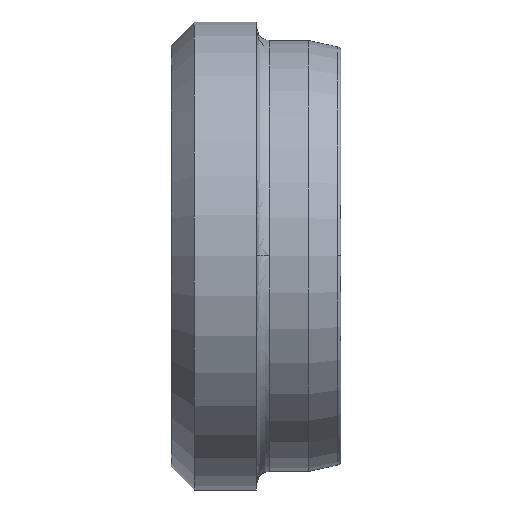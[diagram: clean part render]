
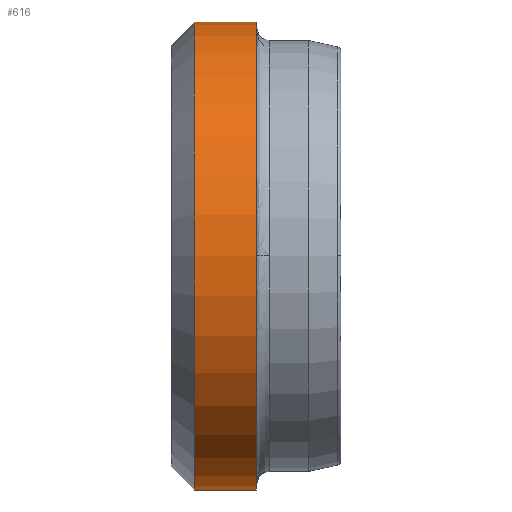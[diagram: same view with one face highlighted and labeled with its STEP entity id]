
A CAD part, top view. The second image highlights one B-rep face of the part: STEP entity #616.
In plain terms, the highlighted cylindrical face has radius 18 mm (diameter 36 mm), a partial arc.
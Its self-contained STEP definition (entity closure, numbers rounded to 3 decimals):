
#575=CARTESIAN_POINT('',(-5.037,-10.882,0.0));
#576=DIRECTION('',(1.0,0.0,0.0));
#577=DIRECTION('',(0.0,1.0,0.0));
#578=AXIS2_PLACEMENT_3D('',#575,#576,#577);
#579=CYLINDRICAL_SURFACE('',#578,18.0);
#580=CARTESIAN_POINT('',(-6.525,7.118,0.0));
#581=VERTEX_POINT('',#580);
#582=CARTESIAN_POINT('',(-1.75,7.118,0.0));
#583=VERTEX_POINT('',#582);
#584=CARTESIAN_POINT('',(-6.525,7.118,0.0));
#585=DIRECTION('',(1.0,0.0,0.0));
#586=VECTOR('',#585,4.775);
#587=LINE('',#584,#586);
#588=EDGE_CURVE('',#581,#583,#587,.T.);
#589=ORIENTED_EDGE('',*,*,#588,.F.);
#590=CARTESIAN_POINT('',(-6.525,-28.882,0.));
#591=VERTEX_POINT('',#590);
#592=CARTESIAN_POINT('',(-6.525,-10.882,0.0));
#593=DIRECTION('',(-1.0,0.0,0.0));
#594=DIRECTION('',(0.0,-1.0,0.0));
#595=AXIS2_PLACEMENT_3D('',#592,#593,#594);
#596=CIRCLE('',#595,18.0);
#597=EDGE_CURVE('',#591,#581,#596,.T.);
#598=ORIENTED_EDGE('',*,*,#597,.F.);
#599=CARTESIAN_POINT('',(-1.75,-28.882,0.));
#600=VERTEX_POINT('',#599);
#601=CARTESIAN_POINT('',(-1.75,-28.882,0.));
#602=DIRECTION('',(-1.0,0.0,0.0));
#603=VECTOR('',#602,4.775);
#604=LINE('',#601,#603);
#605=EDGE_CURVE('',#600,#591,#604,.T.);
#606=ORIENTED_EDGE('',*,*,#605,.F.);
#607=CARTESIAN_POINT('',(-1.75,-10.882,0.0));
#608=DIRECTION('',(1.0,0.0,0.0));
#609=DIRECTION('',(0.0,1.0,0.0));
#610=AXIS2_PLACEMENT_3D('',#607,#608,#609);
#611=CIRCLE('',#610,18.0);
#612=EDGE_CURVE('',#583,#600,#611,.T.);
#613=ORIENTED_EDGE('',*,*,#612,.F.);
#614=EDGE_LOOP('',(#589,#598,#606,#613));
#615=FACE_OUTER_BOUND('',#614,.T.);
#616=ADVANCED_FACE('',(#615),#579,.T.);
